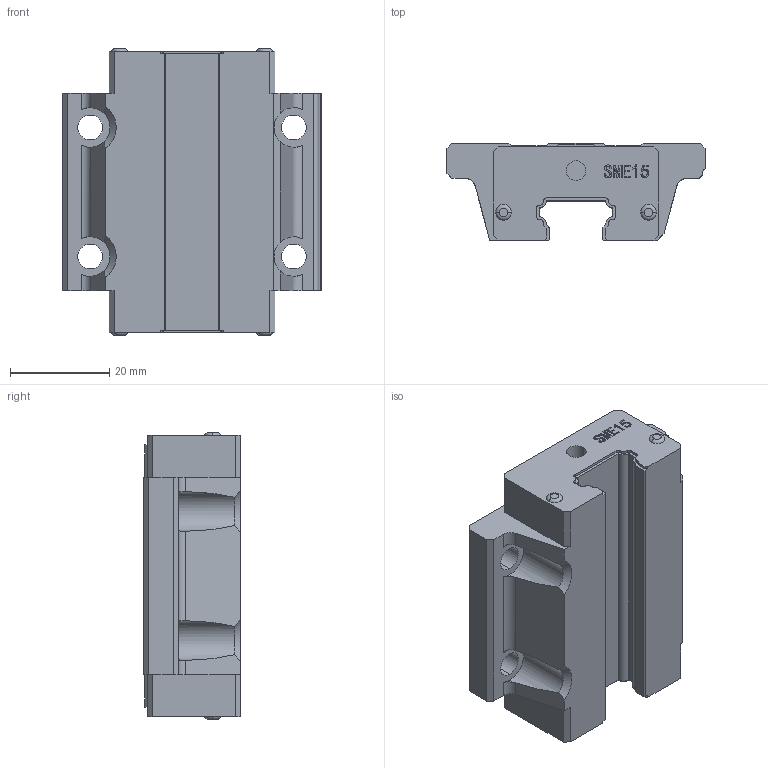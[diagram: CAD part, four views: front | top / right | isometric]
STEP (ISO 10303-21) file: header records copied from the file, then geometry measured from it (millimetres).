
FILE_DESCRIPTION (( 'STEP AP203' ), '1' );
FILE_NAME ('SME15A.stp', '2019-09-20T01:15:53', ( 'pgos' ), ( '' ), 'SwSTEP 2.0', 'SolidWorks 2014', '' );
FILE_SCHEMA (( 'CONFIG_CONTROL_DESIGN' ));
Length unit declared in the file: millimetre
Products named in the file (1): SME15A
Bounding box: 52 x 19.5 x 57.8 mm (x, y, z)
Volume: 36604.7 mm3; surface area: 10447.6 mm2
Topology: 1 solids, 1 shells, 243 faces, 684 edges, 456 vertices
Faces by surface type: plane 137, cylinder 78, bspline 18, torus 8, cone 2
Entity records: 9223 total; most frequent: CARTESIAN_POINT 2868, ORIENTED_EDGE 1368, DIRECTION 1234, EDGE_CURVE 684, VERTEX_POINT 456, VECTOR 454, LINE 454, AXIS2_PLACEMENT_3D 390
